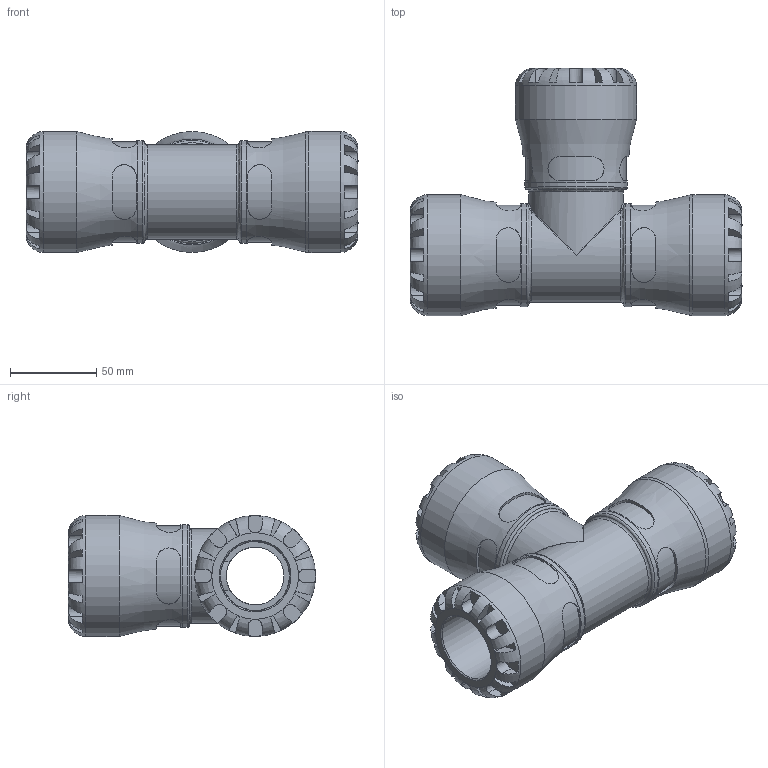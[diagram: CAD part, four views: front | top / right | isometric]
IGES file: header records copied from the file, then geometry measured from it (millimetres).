
Global section: file name: 100400040_190400040.ipt; native system: Autodesk Inventor 2015; preprocessor: unknown; author: KIM; date: 20180211.125744; units: millimetre
Bounding box: 192 x 143 x 70 mm (x, y, z)
Volume: 507245.6 mm3; surface area: 99932.7 mm2
Topology: 1 solids, 1 shells, 298 faces, 783 edges, 493 vertices
Faces by surface type: plane 174, revolution 68, cylinder 46, bspline 10
Full cylindrical faces by diameter (mm): 54.6 x1, 59.5 x3, 70 x3
